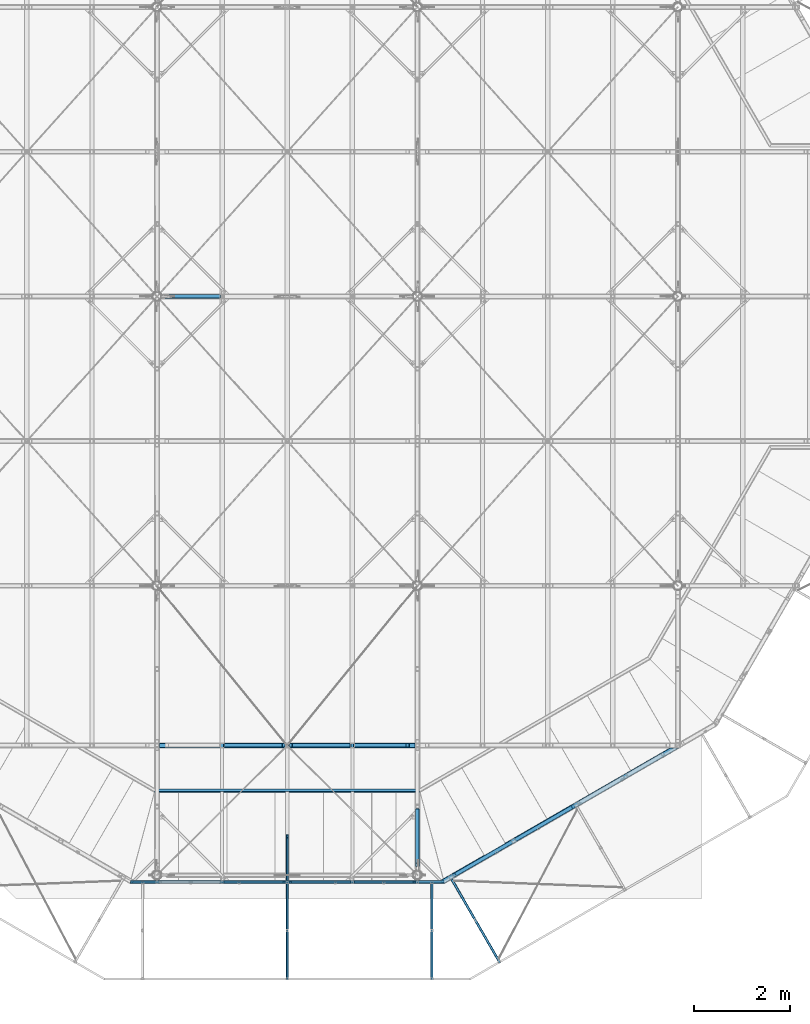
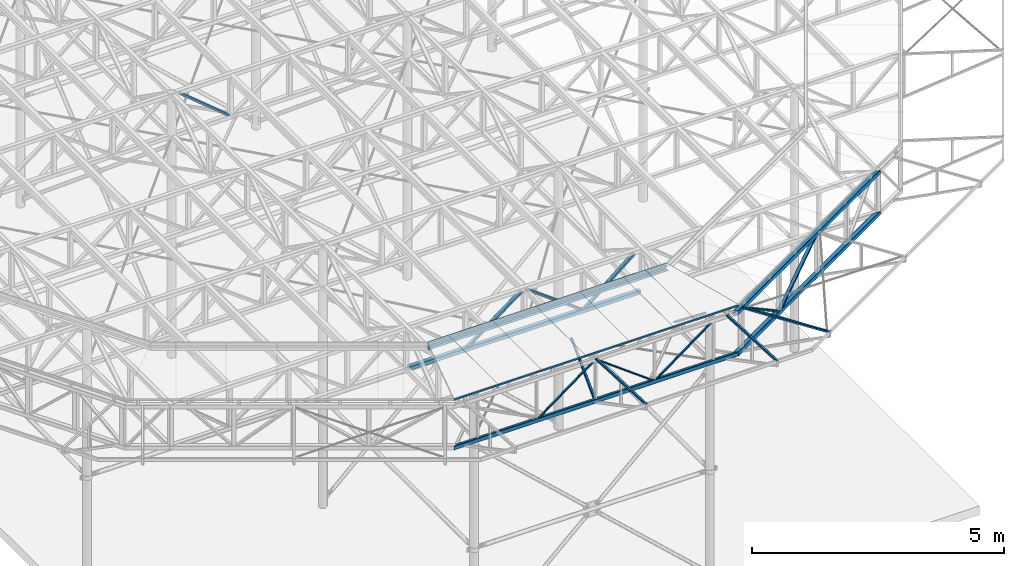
# One storey, part 45 of 132: 21 discrete accessories, 9 elements without a shape of their own.
"""IFC2X3 building model written with IfcOpenShell, lengths in millimetres."""

from ifc_helpers import new_model, si_unit, frame, origin_with_axes, origin_2d_with_axis, place, context, subcontext, project, spatial, hollow_rectangle, l_section, extrude, boolean, clip, halfspace, material, type_object, element, aggregate, save


model = new_model("IFC2X3")

# Units and contexts
model_context = context("Model", 3, precision=1e-05, world=origin_with_axes())
body_context = subcontext(model_context, "Body", "Model", "MODEL_VIEW")
ifc_project = project(units=[si_unit("LENGTHUNIT", "METRE", prefix="MILLI"), si_unit("AREAUNIT", "SQUARE_METRE"), si_unit("VOLUMEUNIT", "CUBIC_METRE"), si_unit("MASSUNIT", "GRAM", prefix="KILO"), si_unit("TIMEUNIT", "SECOND"), si_unit("PLANEANGLEUNIT", "RADIAN"), si_unit("SOLIDANGLEUNIT", "STERADIAN"), si_unit("THERMODYNAMICTEMPERATUREUNIT", "DEGREE_CELSIUS"), si_unit("LUMINOUSINTENSITYUNIT", "LUMEN")], contexts=[model_context])

# Site, building, storey
site_placement = place(None, origin_with_axes())
site = spatial("IfcSite", under=ifc_project, at=site_placement, Name="Budowa", CompositionType="ELEMENT")
building_placement = place(site_placement, origin_with_axes())
building = spatial("IfcBuilding", under=site, at=building_placement, Name="Undefined", CompositionType="ELEMENT")
storey_placement = place(building_placement, origin_with_axes())
storey = spatial("IfcBuildingStorey", under=building, at=storey_placement, Name="Undefined", CompositionType="ELEMENT", Elevation=0.0)

# Assembly, discrete accessories
assembly_1_placement = place(storey_placement, origin_with_axes())
assembly_1 = element("IfcElementAssembly", 1, at=assembly_1_placement, inside=storey, Name="Steel Assembly", AssemblyPlace="NOTDEFINED", PredefinedType="RIGID_FRAME")
ifc_material = material(Name="STEEL/S235")
discrete_accessory_type = type_object("IfcDiscreteAccessoryType", Name="BEAM")
discrete_accessory_1_placement = place(assembly_1_placement, frame((8862.99999997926, -144.900000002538, 14004.0), z_axis=(0.0, 1.0, 0.0), x_axis=(1.0, 0.0, 0.0)))
discrete_accessory_1 = element("IfcDiscreteAccessory", 2, at=discrete_accessory_1_placement, type_object=discrete_accessory_type, material=ifc_material, Name="BEAM", ObjectType="L60*40*6", context=body_context, shape_type="Clipping", body=[
    clip(clip(extrude(l_section(Depth=60.0, Width=40.0, Thickness=6.0, FilletRadius=6.0, EdgeRadius=3.0, at=origin_2d_with_axis()), frame((6532.19860092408, 0.0, 0.0), z_axis=(-1.0, 0.0, 0.0), x_axis=(0.0, -1.0, 0.0)), (0.0, 0.0, 1.0), 6540.4), halfspace(frame((6523.99999999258, 0.0, -29.9999999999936), z_axis=(0.965926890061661, 0.0, 0.258815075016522), x_axis=(0.0, -1.0, 0.0)), False)), halfspace(frame((16.0756852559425, 0.0, 30.0000000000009), z_axis=(-0.965930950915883, 0.0, 0.258799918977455), x_axis=(0.0, -1.0, 0.0)), False)),
])
discrete_accessory_2_placement = place(assembly_1_placement, frame((9387.09565701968, 1757.0005229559, 13965.0), z_axis=(0.0, -1.0, 0.0), x_axis=(1.0, 0.0, 0.0)))
discrete_accessory_2 = element("IfcDiscreteAccessory", 3, at=discrete_accessory_2_placement, type_object=discrete_accessory_type, material=ifc_material, Name="BEAM", ObjectType="L50*6", context=body_context, shape_type="Clipping", body=[
    clip(clip(extrude(l_section(Depth=50.0, Width=50.0, Thickness=6.0, FilletRadius=7.0, EdgeRadius=3.5, at=origin_2d_with_axis()), frame((5496.0396283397, 0.0, 0.0), z_axis=(-1.0, 0.0, 0.0), x_axis=(0.0, -1.0, 0.0)), (0.0, 0.0, 1.0), 5516.27), halfspace(frame((5475.80945900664, 0.0, -25.0), z_axis=(-0.965925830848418, 0.0, 0.258819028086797), x_axis=(0.0, 1.0, 0.0)), True)), halfspace(frame((3.51101334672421e-08, 0.0, -24.9999999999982), z_axis=(-0.965925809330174, 0.0, -0.258819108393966), x_axis=(0.0, 1.0, 0.0)), False)),
])
aggregate(assembly_1, [discrete_accessory_1, discrete_accessory_2])

# Assembly, discrete accessory
assembly_2_placement = place(storey_placement, origin_with_axes())
assembly_2 = element("IfcElementAssembly", 4, at=assembly_2_placement, inside=storey, Name="Steel Assembly", AssemblyPlace="NOTDEFINED", PredefinedType="RIGID_FRAME")
discrete_accessory_3_placement = place(assembly_2_placement, frame((9389.50719318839, 1753.50052295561, 13955.0), z_axis=(0.0, 0.0, 1.0), x_axis=(1.0, 0.0, 0.0)))
discrete_accessory_3 = element("IfcDiscreteAccessory", 5, at=discrete_accessory_3_placement, type_object=discrete_accessory_type, material=ifc_material, Name="BEAM", ObjectType="L150*75*9", context=body_context, shape_type="Clipping", body=[
    clip(clip(extrude(l_section(Depth=150.0, Width=75.0, Thickness=9.0, FilletRadius=10.5, EdgeRadius=5.5, at=origin_2d_with_axis()), frame((5501.33162173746, 0.0, 0.0), z_axis=(-1.0, 0.0, 0.0), x_axis=(0.0, -1.0, 0.0)), (0.0, 0.0, 1.0), 5531.68), halfspace(frame((5470.98636773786, 37.5, 0.0), z_axis=(-0.965925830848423, -0.258819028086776, 0.0), x_axis=(0.0, 0.0, 1.0)), True)), halfspace(frame((1.9117578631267e-08, 37.5000000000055, -1.81898940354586e-12), z_axis=(-0.965925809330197, 0.258819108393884, 0.0), x_axis=(0.0, 0.0, 1.0)), False)),
])
aggregate(assembly_2, [discrete_accessory_3])

assembly_3_placement = place(storey_placement, origin_with_axes())
assembly_3 = element("IfcElementAssembly", 6, at=assembly_3_placement, inside=storey, Name="Steel Assembly", AssemblyPlace="NOTDEFINED", PredefinedType="RIGID_FRAME")
discrete_accessory_4_placement = place(assembly_3_placement, frame((12124.7999998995, 787.677669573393, 13742.3223304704), z_axis=(-1.0, 0.0, 0.0), x_axis=(0.0, -0.707106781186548, -0.707106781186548)))
discrete_accessory_4 = element("IfcDiscreteAccessory", 7, at=discrete_accessory_4_placement, type_object=discrete_accessory_type, material=ifc_material, Name="BEAM", ObjectType="SHS50*5", context=body_context, shape_type="Clipping", body=[
    clip(clip(extrude(hollow_rectangle(XDim=50.0, YDim=50.0, WallThickness=5.0, InnerFilletRadius=5.0, OuterFilletRadius=10.0, at=origin_2d_with_axis()), frame((1327.07900269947, -3.63797880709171e-12, 0.0), z_axis=(-1.0, 0.0, 0.0), x_axis=(0.0, -1.0, 0.0)), (0.0, 0.0, 1.0), 1402.58), halfspace(frame((1248.0434687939, 28.5355339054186, 196.150089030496), z_axis=(0.707106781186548, 0.707106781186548, 0.0), x_axis=(0.0, 0.0, -1.0)), False)), halfspace(frame((-67.4264068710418, -42.4264068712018, 999.999999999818), z_axis=(0.707106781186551, -0.707106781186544, 0.0), x_axis=(0.707106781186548, 0.707106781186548, 0.0)), True)),
])
aggregate(assembly_3, [discrete_accessory_4])

assembly_4_placement = place(storey_placement, origin_with_axes())
assembly_4 = element("IfcElementAssembly", 8, at=assembly_4_placement, inside=storey, Name="Steel Assembly", AssemblyPlace="NOTDEFINED", PredefinedType="RIGID_FRAME")
discrete_accessory_5_placement = place(assembly_4_placement, frame((15537.2946203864, -89.5758733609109, 13855.0311915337), z_axis=(0.866042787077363, 0.499969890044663, 0.0), x_axis=(0.499346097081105, -0.86496225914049, 0.0499376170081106)))
discrete_accessory_5 = element("IfcDiscreteAccessory", 9, at=discrete_accessory_5_placement, type_object=discrete_accessory_type, material=ifc_material, Name="BEAM", ObjectType="SHS50*4", context=body_context, shape_type="Clipping", body=[
    clip(clip(extrude(hollow_rectangle(XDim=50.0, YDim=50.0, WallThickness=4.0, InnerFilletRadius=4.0, OuterFilletRadius=8.0, at=origin_2d_with_axis()), frame((2047.80222226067, -1.81898940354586e-12, -1.00153404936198e-12), z_axis=(-1.0, 0.0, 0.0), x_axis=(0.0, -1.0, 0.0)), (0.0, 0.0, 1.0), 2120.54), halfspace(frame((2002.5989463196, -25.0000000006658, -7.85761585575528e-07), z_axis=(-0.689225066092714, -0.724547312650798, 2.88487317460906e-10), x_axis=(0.0, 0.0, -1.0)), True)), halfspace(frame((-1.23691279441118e-08, -25.0000000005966, 73.1665326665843), z_axis=(-0.998752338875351, -0.0499376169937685, 0.0), x_axis=(0.0, 0.0, -1.0)), False)),
])
aggregate(assembly_4, [discrete_accessory_5])

assembly_5_placement = place(storey_placement, origin_with_axes())
assembly_5 = element("IfcElementAssembly", 10, at=assembly_5_placement, inside=storey, Name="Steel Assembly", AssemblyPlace="NOTDEFINED", PredefinedType="RIGID_FRAME")
discrete_accessory_6_placement = place(assembly_5_placement, frame((15124.9999999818, -176.148440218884, 13855.0311915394), z_axis=(1.0, 0.0, 0.0), x_axis=(0.0, -0.998752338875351, 0.0499376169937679)))
discrete_accessory_6 = element("IfcDiscreteAccessory", 11, at=discrete_accessory_6_placement, type_object=discrete_accessory_type, material=ifc_material, Name="BEAM", ObjectType="SHS50*4", context=body_context, shape_type="Clipping", body=[
    clip(clip(extrude(hollow_rectangle(XDim=50.0, YDim=50.0, WallThickness=4.0, InnerFilletRadius=4.0, OuterFilletRadius=8.0, at=origin_2d_with_axis()), frame((2004.12425861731, -3.63797880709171e-12, 0.0), z_axis=(-1.0, 0.0, 0.0), x_axis=(0.0, -1.0, 0.0)), (0.0, 0.0, 1.0), 2033.18), halfspace(frame((2002.5989463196, -25.0000000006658, -7.85761585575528e-07), z_axis=(-0.689225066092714, -0.724547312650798, 2.88487317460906e-10), x_axis=(0.0, 0.0, -1.0)), True)), halfspace(frame((-1.23691279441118e-08, -25.0000000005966, 73.1665326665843), z_axis=(-0.998752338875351, -0.0499376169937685, 0.0), x_axis=(0.0, 0.0, -1.0)), False)),
])
aggregate(assembly_5, [discrete_accessory_6])

assembly_6_placement = place(storey_placement, origin_with_axes())
assembly_6 = element("IfcElementAssembly", 12, at=assembly_6_placement, inside=storey, Name="Steel Assembly", AssemblyPlace="NOTDEFINED", PredefinedType="RIGID_FRAME")
discrete_accessory_7_placement = place(assembly_6_placement, frame((12124.9999999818, -176.148440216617, 13855.031191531), z_axis=(1.0, 0.0, 0.0), x_axis=(0.0, -0.998752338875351, 0.0499376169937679)))
discrete_accessory_7 = element("IfcDiscreteAccessory", 13, at=discrete_accessory_7_placement, type_object=discrete_accessory_type, material=ifc_material, Name="BEAM", ObjectType="SHS50*4", context=body_context, shape_type="Clipping", body=[
    clip(clip(extrude(hollow_rectangle(XDim=50.0, YDim=50.0, WallThickness=4.0, InnerFilletRadius=4.0, OuterFilletRadius=8.0, at=origin_2d_with_axis()), frame((2004.12425861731, -3.63797880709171e-12, 0.0), z_axis=(-1.0, 0.0, 0.0), x_axis=(0.0, -1.0, 0.0)), (0.0, 0.0, 1.0), 2033.18), halfspace(frame((2002.5989463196, -25.0000000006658, -7.85761585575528e-07), z_axis=(-0.689225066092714, -0.724547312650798, 2.88487317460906e-10), x_axis=(0.0, 0.0, -1.0)), True)), halfspace(frame((-1.23691279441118e-08, -25.0000000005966, 73.1665326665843), z_axis=(-0.998752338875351, -0.0499376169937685, 0.0), x_axis=(0.0, 0.0, -1.0)), False)),
])
aggregate(assembly_6, [discrete_accessory_7])

# Assembly, discrete accessories
assembly_7_placement = place(storey_placement, origin_with_axes())
assembly_7 = element("IfcElementAssembly", 14, at=assembly_7_placement, inside=storey, Name="Steel Assembly", AssemblyPlace="NOTDEFINED", PredefinedType="RIGID_FRAME")
discrete_accessory_8_placement = place(assembly_7_placement, frame((18120.0832816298, 1460.65354194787, 13830.0000000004), z_axis=(0.499969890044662, -0.866042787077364, 0.0), x_axis=(-0.720591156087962, -0.41600009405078, -0.554700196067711)))
solid_1 = boolean("DIFFERENCE", boolean("DIFFERENCE", extrude(hollow_rectangle(XDim=90.0, YDim=90.0, WallThickness=4.0, InnerFilletRadius=4.0, OuterFilletRadius=8.0, at=origin_2d_with_axis()), frame((1275.70521449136, -790.377621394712, 2.53191315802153e-07), z_axis=(0.554700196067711, 0.832050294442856, -1.11090858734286e-10), x_axis=(-0.832050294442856, 0.554700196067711, 1.66634595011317e-10)), (0.0, 0.0, 1.0), 900.0), halfspace(frame((1275.70521428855, -790.377621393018, 1000.00000025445), z_axis=(0.554700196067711, 0.832050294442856, -1.11090858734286e-10), x_axis=(0.0, 0.0, -1.0)), True)), halfspace(frame((1774.93539074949, -41.5323563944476, 1000.00000035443), z_axis=(-0.554700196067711, -0.832050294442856, 1.11091980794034e-10), x_axis=(0.0, 0.0, -1.0)), True))
solid_2 = boolean("DIFFERENCE", boolean("DIFFERENCE", extrude(hollow_rectangle(XDim=90.0, YDim=90.0, WallThickness=4.0, InnerFilletRadius=4.0, OuterFilletRadius=8.0, at=origin_2d_with_axis()), frame((27.6297728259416, 41.6726727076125, 6.2698707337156e-09), z_axis=(0.554700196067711, 0.832050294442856, -1.11090858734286e-10), x_axis=(-0.832050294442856, 0.554700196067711, 1.66634595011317e-10)), (0.0, 0.0, 1.0), 900.0), halfspace(frame((27.6297726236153, 41.6726727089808, 1000.00000000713), z_axis=(0.554700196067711, 0.832050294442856, -1.11090858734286e-10), x_axis=(0.0, 0.0, -1.0)), True)), halfspace(frame((526.859949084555, 790.517937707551, 1000.00000010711), z_axis=(-0.554700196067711, -0.832050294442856, 1.11091980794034e-10), x_axis=(0.0, 0.0, -1.0)), True))
discrete_accessory_8 = element("IfcDiscreteAccessory", 15, at=discrete_accessory_8_placement, type_object=discrete_accessory_type, material=ifc_material, Name="BEAM", ObjectType="RHS80*40*4", context=body_context, shape_type="CSG", body=[
    boolean("DIFFERENCE", boolean("DIFFERENCE", boolean("DIFFERENCE", boolean("DIFFERENCE", extrude(hollow_rectangle(XDim=40.0, YDim=80.0, WallThickness=4.0, InnerFilletRadius=4.0, OuterFilletRadius=8.0, at=origin_2d_with_axis()), frame((1821.2793628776, 0.0, -8.6431479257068e-13), z_axis=(-1.0, 0.0, 0.0), x_axis=(0.0, -1.0, 0.0)), (0.0, 0.0, 1.0), 1839.78), solid_1), solid_2), halfspace(frame((1775.04062811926, -41.6025143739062, 999.999999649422), z_axis=(-0.554700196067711, -0.832050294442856, 1.11091980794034e-10), x_axis=(0.832050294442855, -0.554700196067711, -1.66634436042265e-10)), True)), halfspace(frame((27.7350099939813, 41.6025147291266, 999.999999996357), z_axis=(0.554700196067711, 0.832050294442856, -1.11090858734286e-10), x_axis=(-0.832050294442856, 0.554700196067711, 1.66634595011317e-10)), True)),
])
discrete_accessory_9_placement = place(assembly_7_placement, frame((15522.0644567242, -39.1928924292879, 13830.0000000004), z_axis=(0.499969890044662, -0.866042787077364, 0.0), x_axis=(0.720591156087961, 0.41600009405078, -0.554700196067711)))
solid_3 = boolean("DIFFERENCE", boolean("DIFFERENCE", extrude(hollow_rectangle(XDim=90.0, YDim=90.0, WallThickness=4.0, InnerFilletRadius=4.0, OuterFilletRadius=8.0, at=origin_2d_with_axis()), frame((27.7350097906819, -41.6025147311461, -4.89933715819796e-09), z_axis=(0.554700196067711, -0.832050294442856, 1.11090858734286e-10), x_axis=(0.832050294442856, 0.554700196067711, 1.66635594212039e-10)), (0.0, 0.0, 1.0), 900.0), halfspace(frame((27.7350096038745, -41.6025147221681, 1000.00000000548), z_axis=(0.554700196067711, -0.832050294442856, 1.11090858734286e-10), x_axis=(0.0, 0.0, -1.0)), True)), halfspace(frame((526.965186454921, -790.4477797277, 999.999999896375), z_axis=(-0.554700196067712, 0.832050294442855, -1.1109021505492e-10), x_axis=(0.0, 0.0, -1.0)), True))
solid_4 = boolean("DIFFERENCE", boolean("DIFFERENCE", extrude(hollow_rectangle(XDim=90.0, YDim=90.0, WallThickness=4.0, InnerFilletRadius=4.0, OuterFilletRadius=8.0, at=origin_2d_with_axis()), frame((1275.81045145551, 790.447779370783, -2.51850795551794e-07), z_axis=(0.554700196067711, -0.832050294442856, 1.11090858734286e-10), x_axis=(0.832050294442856, 0.554700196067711, 1.66635594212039e-10)), (0.0, 0.0, 1.0), 900.0), halfspace(frame((1275.81045165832, 790.447779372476, 999.999999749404), z_axis=(0.554700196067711, -0.832050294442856, 1.11090858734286e-10), x_axis=(0.0, 0.0, -1.0)), True)), halfspace(frame((1775.04062824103, 41.6025147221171, 999.999999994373), z_axis=(-0.554700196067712, 0.832050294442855, -1.1109021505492e-10), x_axis=(0.0, 0.0, -1.0)), True))
discrete_accessory_9 = element("IfcDiscreteAccessory", 16, at=discrete_accessory_9_placement, type_object=discrete_accessory_type, material=ifc_material, Name="BEAM", ObjectType="RHS80*40*4", context=body_context, shape_type="CSG", body=[
    boolean("DIFFERENCE", boolean("DIFFERENCE", boolean("DIFFERENCE", boolean("DIFFERENCE", extrude(hollow_rectangle(XDim=40.0, YDim=80.0, WallThickness=4.0, InnerFilletRadius=4.0, OuterFilletRadius=8.0, at=origin_2d_with_axis()), frame((1821.2793628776, 0.0, -8.6431479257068e-13), z_axis=(-1.0, 0.0, 0.0), x_axis=(0.0, -1.0, 0.0)), (0.0, 0.0, 1.0), 1839.78), solid_3), solid_4), halfspace(frame((1775.04062824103, 41.6025147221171, 999.999999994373), z_axis=(-0.554700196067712, 0.832050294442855, -1.1109021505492e-10), x_axis=(-0.832050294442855, -0.554700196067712, -1.66634890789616e-10)), True)), halfspace(frame((27.7350096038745, -41.6025147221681, 1000.00000000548), z_axis=(0.554700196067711, -0.832050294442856, 1.11090858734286e-10), x_axis=(0.832050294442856, 0.554700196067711, 1.66635594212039e-10)), True)),
])
discrete_accessory_10_placement = place(assembly_7_placement, frame((15362.0015054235, -131.597860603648, 12830.0), z_axis=(0.0, 0.0, 1.0), x_axis=(0.866042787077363, 0.499969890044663, 0.0)))
discrete_accessory_10 = element("IfcDiscreteAccessory", 17, at=discrete_accessory_10_placement, type_object=discrete_accessory_type, material=ifc_material, Name="BEAM", ObjectType="SHS100*5", context=body_context, shape_type="Clipping", body=[
    clip(clip(extrude(hollow_rectangle(XDim=100.0, YDim=100.0, WallThickness=5.0, InnerFilletRadius=5.0, OuterFilletRadius=10.0, at=origin_2d_with_axis()), frame((5640.58238679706, 0.0, 1.81898940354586e-12), z_axis=(-1.0, 0.0, 0.0), x_axis=(0.0, -1.0, 0.0)), (0.0, 0.0, 1.0), 5811.83), halfspace(frame((5456.92005784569, 50.0, -49.9999999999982), z_axis=(0.499969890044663, 0.866042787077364, 0.0), x_axis=(0.866042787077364, -0.499969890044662, 0.0)), False)), halfspace(frame((-53.2117618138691, 50.0000000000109, 1.81898940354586e-12), z_axis=(-0.882798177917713, -0.46975246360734, 0.0), x_axis=(0.0, 0.0, 1.0)), False)),
])
discrete_accessory_11_placement = place(assembly_7_placement, frame((15362.0015054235, -131.597860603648, 13830.0), z_axis=(0.0, 0.0, 1.0), x_axis=(0.866042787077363, 0.499969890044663, 0.0)))
discrete_accessory_11 = element("IfcDiscreteAccessory", 18, at=discrete_accessory_11_placement, type_object=discrete_accessory_type, material=ifc_material, Name="BEAM", ObjectType="SHS100*5", context=body_context, shape_type="Clipping", body=[
    clip(clip(extrude(hollow_rectangle(XDim=100.0, YDim=100.0, WallThickness=5.0, InnerFilletRadius=5.0, OuterFilletRadius=10.0, at=origin_2d_with_axis()), frame((5640.58238679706, 0.0, 1.81898940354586e-12), z_axis=(-1.0, 0.0, 0.0), x_axis=(0.0, -1.0, 0.0)), (0.0, 0.0, 1.0), 5811.83), halfspace(frame((5456.92005784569, 50.0, -49.9999999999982), z_axis=(0.499969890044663, 0.866042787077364, 0.0), x_axis=(0.866042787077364, -0.499969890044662, 0.0)), False)), halfspace(frame((-53.2117618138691, 50.0000000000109, 1.81898940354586e-12), z_axis=(-0.882798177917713, -0.46975246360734, 0.0), x_axis=(0.0, 0.0, 1.0)), False)),
])
discrete_accessory_12_placement = place(assembly_7_placement, frame((13474.9999999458, -144.899999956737, 12829.9999999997), z_axis=(0.0, -1.0, 0.0), x_axis=(0.803557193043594, 0.0, 0.595227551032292)))
discrete_accessory_12 = element("IfcDiscreteAccessory", 19, at=discrete_accessory_12_placement, type_object=discrete_accessory_type, material=ifc_material, Name="BEAM", ObjectType="RHS50*30*5", context=body_context, shape_type="Clipping", body=[
    clip(clip(extrude(hollow_rectangle(XDim=30.0, YDim=50.0, WallThickness=5.0, InnerFilletRadius=5.0, OuterFilletRadius=10.0, at=origin_2d_with_axis()), frame((1636.93327242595, -3.63797880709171e-12, 3.63797880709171e-12), z_axis=(-1.0, 0.0, 0.0), x_axis=(0.0, -1.0, 0.0)), (0.0, 0.0, 1.0), 1593.84), halfspace(frame((1650.2683829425, -40.1778596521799, 1000.0), z_axis=(-0.595227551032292, -0.803557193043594, 0.0), x_axis=(0.803557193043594, -0.595227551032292, 0.0)), True)), halfspace(frame((29.7613775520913, 40.1778596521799, 1000.0), z_axis=(0.595227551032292, 0.803557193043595, 0.0), x_axis=(-0.803557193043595, 0.595227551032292, 0.0)), True)),
])
discrete_accessory_13_placement = place(assembly_7_placement, frame((12124.9999999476, -144.899999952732, 13830.0000000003), z_axis=(0.0, -1.0, 0.0), x_axis=(0.803557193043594, 0.0, -0.595227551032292)))
discrete_accessory_13 = element("IfcDiscreteAccessory", 20, at=discrete_accessory_13_placement, type_object=discrete_accessory_type, material=ifc_material, Name="BEAM", ObjectType="RHS50*30*5", context=body_context, shape_type="Clipping", body=[
    clip(clip(extrude(hollow_rectangle(XDim=30.0, YDim=50.0, WallThickness=5.0, InnerFilletRadius=5.0, OuterFilletRadius=10.0, at=origin_2d_with_axis()), frame((1636.93327242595, -3.63797880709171e-12, 3.63797880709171e-12), z_axis=(-1.0, 0.0, 0.0), x_axis=(0.0, -1.0, 0.0)), (0.0, 0.0, 1.0), 1593.84), halfspace(frame((1650.2683829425, 40.1778596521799, 1000.0), z_axis=(-0.595227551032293, 0.803557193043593, 0.0), x_axis=(-0.803557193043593, -0.595227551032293, 0.0)), True)), halfspace(frame((29.7613775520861, -40.1778596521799, 1000.0), z_axis=(0.595227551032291, -0.803557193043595, 0.0), x_axis=(0.803557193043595, 0.595227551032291, 0.0)), True)),
])
discrete_accessory_14_placement = place(assembly_7_placement, frame((10774.999999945, -144.899999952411, 12829.9999999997), z_axis=(0.0, -1.0, 0.0), x_axis=(0.803557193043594, 0.0, 0.595227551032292)))
discrete_accessory_14 = element("IfcDiscreteAccessory", 21, at=discrete_accessory_14_placement, type_object=discrete_accessory_type, material=ifc_material, Name="BEAM", ObjectType="RHS50*30*5", context=body_context, shape_type="Clipping", body=[
    clip(clip(extrude(hollow_rectangle(XDim=30.0, YDim=50.0, WallThickness=5.0, InnerFilletRadius=5.0, OuterFilletRadius=10.0, at=origin_2d_with_axis()), frame((1636.93327242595, -3.63797880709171e-12, 3.63797880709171e-12), z_axis=(-1.0, 0.0, 0.0), x_axis=(0.0, -1.0, 0.0)), (0.0, 0.0, 1.0), 1593.84), halfspace(frame((1650.2683829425, -40.1778596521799, 1000.0), z_axis=(-0.595227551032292, -0.803557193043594, 0.0), x_axis=(0.803557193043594, -0.595227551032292, 0.0)), True)), halfspace(frame((29.7613775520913, 40.1778596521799, 1000.0), z_axis=(0.595227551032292, 0.803557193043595, 0.0), x_axis=(-0.803557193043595, 0.595227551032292, 0.0)), True)),
])
discrete_accessory_15_placement = place(assembly_7_placement, frame((8861.99999994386, -144.899999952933, 12830.0), z_axis=(0.0, 0.0, 1.0), x_axis=(1.0, 0.0, 0.0)))
discrete_accessory_15 = element("IfcDiscreteAccessory", 22, at=discrete_accessory_15_placement, type_object=discrete_accessory_type, material=ifc_material, Name="BEAM", ObjectType="RHS100*60*6", context=body_context, shape_type="Clipping", body=[
    clip(clip(extrude(hollow_rectangle(XDim=60.0, YDim=100.0, WallThickness=6.0, InnerFilletRadius=6.0, OuterFilletRadius=12.0, at=origin_2d_with_axis()), frame((6574.00113225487, 0.0, 0.0), z_axis=(-1.0, 0.0, 0.0), x_axis=(0.0, -1.0, 0.0)), (0.0, 0.0, 1.0), 6622.0), halfspace(frame((6428.91934847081, 29.9999999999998, 0.0), z_axis=(-0.529678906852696, -0.848198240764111, 0.0), x_axis=(0.0, 0.0, 1.0)), True)), halfspace(frame((1.00000004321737, -29.9999999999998, 0.0), z_axis=(0.529678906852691, -0.848198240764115, 0.0), x_axis=(0.0, 0.0, 1.0)), True)),
])
discrete_accessory_16_placement = place(assembly_7_placement, frame((14824.9999999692, 149.961365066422, 13830.0000000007), z_axis=(1.0, 0.0, 0.0), x_axis=(0.0, 0.785673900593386, -0.618640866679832)))
solid_5 = boolean("DIFFERENCE", boolean("DIFFERENCE", extrude(hollow_rectangle(XDim=90.0, YDim=90.0, WallThickness=6.0, InnerFilletRadius=6.0, OuterFilletRadius=12.0, at=origin_2d_with_axis()), frame((1028.76825158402, 746.414106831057, -1.21326593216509e-09), z_axis=(0.618640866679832, -0.785673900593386, 0.0), x_axis=(-0.785673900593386, -0.618640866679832, 0.0)), (0.0, 0.0, 1.0), 900.0), halfspace(frame((1028.76825158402, 746.414106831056, -1000.00000000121), z_axis=(0.618640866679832, -0.785673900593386, 0.0), x_axis=(-0.785673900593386, -0.618640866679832, 0.0)), True)), halfspace(frame((1585.54503159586, 39.3075962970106, -1000.00000000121), z_axis=(-0.618640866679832, 0.785673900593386, 0.0), x_axis=(0.785673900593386, 0.618640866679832, 0.0)), True))
discrete_accessory_16 = element("IfcDiscreteAccessory", 23, at=discrete_accessory_16_placement, type_object=discrete_accessory_type, material=ifc_material, Name="BEAM", ObjectType="RHS90*50*5", context=body_context, shape_type="CSG", body=[
    boolean("DIFFERENCE", boolean("DIFFERENCE", boolean("DIFFERENCE", extrude(hollow_rectangle(XDim=50.0, YDim=90.0, WallThickness=5.0, InnerFilletRadius=7.5, OuterFilletRadius=12.5, at=origin_2d_with_axis()), frame((1582.4028592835, 8.21653697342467e-13, 0.0), z_axis=(-1.0, 0.0, 0.0), x_axis=(0.0, -1.0, 0.0)), (0.0, 0.0, 1.0), 1548.36), solid_5), halfspace(frame((1585.51467698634, 39.2836950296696, 1000.0), z_axis=(-0.618640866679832, 0.785673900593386, 0.0), x_axis=(-0.785673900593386, -0.618640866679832, 0.0)), True)), halfspace(frame((30.9320433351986, -39.2836950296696, 1000.0), z_axis=(0.618640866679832, -0.785673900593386, 0.0), x_axis=(0.785673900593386, 0.618640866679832, 0.0)), True)),
])
aggregate(assembly_7, [discrete_accessory_8, discrete_accessory_9, discrete_accessory_10, discrete_accessory_11, discrete_accessory_12, discrete_accessory_13, discrete_accessory_14, discrete_accessory_15, discrete_accessory_16])

assembly_8_placement = place(storey_placement, origin_with_axes())
assembly_8 = element("IfcElementAssembly", 24, at=assembly_8_placement, inside=storey, Name="Steel Assembly", AssemblyPlace="NOTDEFINED", PredefinedType="RIGID_FRAME")
discrete_accessory_17_placement = place(assembly_8_placement, frame((14683.9999999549, 2690.00000004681, 13830.0), z_axis=(0.0, -1.0, 0.0), x_axis=(-0.770567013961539, 0.0, -0.637358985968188)))
solid_6 = boolean("DIFFERENCE", boolean("DIFFERENCE", extrude(hollow_rectangle(XDim=90.0, YDim=90.0, WallThickness=6.0, InnerFilletRadius=6.0, OuterFilletRadius=12.0, at=origin_2d_with_axis()), frame((1537.1065565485, -38.5283507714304, -6.22094376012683e-10), z_axis=(-0.637358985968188, -0.770567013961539, 0.0), x_axis=(0.770567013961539, -0.637358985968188, 0.0)), (0.0, 0.0, 1.0), 900.0), halfspace(frame((1537.1065565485, -38.5283507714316, 999.999999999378), z_axis=(-0.637358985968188, -0.770567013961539, 0.0), x_axis=(0.770567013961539, -0.637358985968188, 0.0)), True)), halfspace(frame((963.483469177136, -732.038663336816, 999.999999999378), z_axis=(0.637358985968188, 0.770567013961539, 0.0), x_axis=(-0.770567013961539, 0.637358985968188, 0.0)), True))
discrete_accessory_17 = element("IfcDiscreteAccessory", 25, at=discrete_accessory_17_placement, type_object=discrete_accessory_type, material=ifc_material, Name="BEAM", ObjectType="RHS90*50*5", context=body_context, shape_type="CSG", body=[
    boolean("DIFFERENCE", boolean("DIFFERENCE", boolean("DIFFERENCE", extrude(hollow_rectangle(XDim=50.0, YDim=90.0, WallThickness=5.0, InnerFilletRadius=7.5, OuterFilletRadius=12.5, at=origin_2d_with_axis()), frame((1533.07734352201, 2.27373675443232e-12, 0.0), z_axis=(-1.0, 0.0, 0.0), x_axis=(0.0, -1.0, 0.0)), (0.0, 0.0, 1.0), 1497.18), solid_6), halfspace(frame((1537.1065565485, -38.5283507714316, 999.999999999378), z_axis=(-0.637358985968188, -0.770567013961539, 0.0), x_axis=(0.770567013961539, -0.637358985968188, 0.0)), True)), halfspace(frame((31.867949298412, 38.52835069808, 1000.0), z_axis=(0.637358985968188, 0.770567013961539, 0.0), x_axis=(-0.770567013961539, 0.637358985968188, 0.0)), True)),
])
discrete_accessory_18_placement = place(assembly_8_placement, frame((12124.9999999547, 2690.00000004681, 13830.0), z_axis=(0.0, -1.0, 0.0), x_axis=(-0.803557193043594, 0.0, -0.595227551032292)))
solid_7 = boolean("DIFFERENCE", boolean("DIFFERENCE", extrude(hollow_rectangle(XDim=90.0, YDim=90.0, WallThickness=6.0, InnerFilletRadius=6.0, OuterFilletRadius=12.0, at=origin_2d_with_axis()), frame((565.466173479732, 763.379333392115, -6.22094376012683e-10), z_axis=(-0.595227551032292, -0.803557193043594, 0.0), x_axis=(0.803557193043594, -0.595227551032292, 0.0)), (0.0, 0.0, 1.0), 900.0), halfspace(frame((565.46617347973, 763.379333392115, 999.999999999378), z_axis=(-0.595227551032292, -0.803557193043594, 0.0), x_axis=(0.803557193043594, -0.595227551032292, 0.0)), True)), halfspace(frame((29.7613775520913, 40.1778596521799, 1000.0), z_axis=(0.595227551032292, 0.803557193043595, 0.0), x_axis=(-0.803557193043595, 0.595227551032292, 0.0)), True))
solid_8 = boolean("DIFFERENCE", boolean("DIFFERENCE", extrude(hollow_rectangle(XDim=90.0, YDim=90.0, WallThickness=6.0, InnerFilletRadius=6.0, OuterFilletRadius=12.0, at=origin_2d_with_axis()), frame((1650.26838408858, -40.1778605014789, -6.22094376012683e-10), z_axis=(-0.595227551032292, -0.803557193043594, 0.0), x_axis=(0.803557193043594, -0.595227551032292, 0.0)), (0.0, 0.0, 1.0), 900.0), halfspace(frame((1650.2683829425, -40.1778596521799, 1000.0), z_axis=(-0.595227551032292, -0.803557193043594, 0.0), x_axis=(0.803557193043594, -0.595227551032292, 0.0)), True)), halfspace(frame((1114.56358815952, -763.379334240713, 999.999999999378), z_axis=(0.595227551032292, 0.803557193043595, 0.0), x_axis=(-0.803557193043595, 0.595227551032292, 0.0)), True))
discrete_accessory_18 = element("IfcDiscreteAccessory", 26, at=discrete_accessory_18_placement, type_object=discrete_accessory_type, material=ifc_material, Name="BEAM", ObjectType="RHS90*50*5", context=body_context, shape_type="CSG", body=[
    boolean("DIFFERENCE", boolean("DIFFERENCE", boolean("DIFFERENCE", boolean("DIFFERENCE", extrude(hollow_rectangle(XDim=50.0, YDim=90.0, WallThickness=5.0, InnerFilletRadius=7.5, OuterFilletRadius=12.5, at=origin_2d_with_axis()), frame((1632.54994793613, 0.0, 0.0), z_axis=(-1.0, 0.0, 0.0), x_axis=(0.0, -1.0, 0.0)), (0.0, 0.0, 1.0), 1585.07), solid_7), solid_8), halfspace(frame((1650.2683829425, -40.1778596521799, 1000.0), z_axis=(-0.595227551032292, -0.803557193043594, 0.0), x_axis=(0.803557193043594, -0.595227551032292, 0.0)), True)), halfspace(frame((29.7613775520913, 40.1778596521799, 1000.0), z_axis=(0.595227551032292, 0.803557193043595, 0.0), x_axis=(-0.803557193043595, 0.595227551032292, 0.0)), True)),
])
discrete_accessory_19_placement = place(assembly_8_placement, frame((12124.9999999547, 2690.00000004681, 13830.0), z_axis=(0.0, -1.0, 0.0), x_axis=(0.803557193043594, 0.0, -0.595227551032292)))
solid_9 = boolean("DIFFERENCE", boolean("DIFFERENCE", extrude(hollow_rectangle(XDim=90.0, YDim=90.0, WallThickness=6.0, InnerFilletRadius=6.0, OuterFilletRadius=12.0, at=origin_2d_with_axis()), frame((1650.26838408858, 40.1778605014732, -6.22094376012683e-10), z_axis=(-0.595227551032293, 0.803557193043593, 0.0), x_axis=(-0.803557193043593, -0.595227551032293, 0.0)), (0.0, 0.0, 1.0), 900.0), halfspace(frame((1650.2683829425, 40.1778596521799, 1000.0), z_axis=(-0.595227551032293, 0.803557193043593, 0.0), x_axis=(-0.803557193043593, -0.595227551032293, 0.0)), True)), halfspace(frame((1114.56358815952, 763.379334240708, 999.999999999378), z_axis=(0.595227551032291, -0.803557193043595, 0.0), x_axis=(0.803557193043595, 0.595227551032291, 0.0)), True))
solid_10 = boolean("DIFFERENCE", boolean("DIFFERENCE", extrude(hollow_rectangle(XDim=90.0, YDim=90.0, WallThickness=6.0, InnerFilletRadius=6.0, OuterFilletRadius=12.0, at=origin_2d_with_axis()), frame((565.46617347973, -763.379333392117, -6.22094376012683e-10), z_axis=(-0.595227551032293, 0.803557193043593, 0.0), x_axis=(-0.803557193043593, -0.595227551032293, 0.0)), (0.0, 0.0, 1.0), 900.0), halfspace(frame((565.46617347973, -763.37933339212, 999.999999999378), z_axis=(-0.595227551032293, 0.803557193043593, 0.0), x_axis=(-0.803557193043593, -0.595227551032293, 0.0)), True)), halfspace(frame((29.7613775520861, -40.1778596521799, 1000.0), z_axis=(0.595227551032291, -0.803557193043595, 0.0), x_axis=(0.803557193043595, 0.595227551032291, 0.0)), True))
discrete_accessory_19 = element("IfcDiscreteAccessory", 27, at=discrete_accessory_19_placement, type_object=discrete_accessory_type, material=ifc_material, Name="BEAM", ObjectType="RHS90*50*5", context=body_context, shape_type="CSG", body=[
    boolean("DIFFERENCE", boolean("DIFFERENCE", boolean("DIFFERENCE", boolean("DIFFERENCE", extrude(hollow_rectangle(XDim=50.0, YDim=90.0, WallThickness=5.0, InnerFilletRadius=7.5, OuterFilletRadius=12.5, at=origin_2d_with_axis()), frame((1632.54994793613, 0.0, 0.0), z_axis=(-1.0, 0.0, 0.0), x_axis=(0.0, -1.0, 0.0)), (0.0, 0.0, 1.0), 1585.07), solid_9), solid_10), halfspace(frame((1650.2683829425, 40.1778596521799, 1000.0), z_axis=(-0.595227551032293, 0.803557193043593, 0.0), x_axis=(-0.803557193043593, -0.595227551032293, 0.0)), True)), halfspace(frame((29.7613775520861, -40.1778596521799, 1000.0), z_axis=(0.595227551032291, -0.803557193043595, 0.0), x_axis=(0.803557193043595, 0.595227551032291, 0.0)), True)),
])
discrete_accessory_20_placement = place(assembly_8_placement, frame((9474.9999999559, 2689.00000004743, 12830.0), z_axis=(0.0, -1.0, 0.0), x_axis=(1.0, 0.0, 0.0)))
discrete_accessory_20 = element("IfcDiscreteAccessory", 28, at=discrete_accessory_20_placement, type_object=discrete_accessory_type, material=ifc_material, Name="BEAM", ObjectType="SHS100*8", context=body_context, shape_type="SweptSolid", body=[
    extrude(hollow_rectangle(XDim=100.0, YDim=100.0, WallThickness=8.0, InnerFilletRadius=8.0, OuterFilletRadius=16.0, at=origin_2d_with_axis()), frame((5300.0, 0.0, 0.0), z_axis=(-1.0, 0.0, 0.0), x_axis=(0.0, -1.0, 0.0)), (0.0, 0.0, 1.0), 5300.0),
])
aggregate(assembly_8, [discrete_accessory_17, discrete_accessory_18, discrete_accessory_19, discrete_accessory_20])

# Assembly, discrete accessory
assembly_9_placement = place(storey_placement, origin_with_axes())
assembly_9 = element("IfcElementAssembly", 29, at=assembly_9_placement, inside=storey, Name="Steel Assembly", AssemblyPlace="NOTDEFINED", PredefinedType="RIGID_FRAME")
discrete_accessory_21_placement = place(assembly_9_placement, frame((9565.99999995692, 12000.0000000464, 13830.0), z_axis=(0.0, -1.0, 0.0), x_axis=(0.770567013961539, 0.0, -0.637358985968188)))
solid_11 = boolean("DIFFERENCE", boolean("DIFFERENCE", extrude(hollow_rectangle(XDim=90.0, YDim=90.0, WallThickness=6.0, InnerFilletRadius=6.0, OuterFilletRadius=12.0, at=origin_2d_with_axis()), frame((1537.1065565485, 38.528350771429, -6.22094376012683e-10), z_axis=(-0.637358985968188, 0.770567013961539, 0.0), x_axis=(-0.770567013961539, -0.637358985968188, 0.0)), (0.0, 0.0, 1.0), 900.0), halfspace(frame((1537.1065565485, 38.5283507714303, 999.999999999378), z_axis=(-0.637358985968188, 0.770567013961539, 0.0), x_axis=(-0.770567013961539, -0.637358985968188, 0.0)), True)), halfspace(frame((963.483469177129, 732.038663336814, 999.999999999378), z_axis=(0.637358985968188, -0.770567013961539, 0.0), x_axis=(0.770567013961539, 0.637358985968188, 0.0)), True))
discrete_accessory_21 = element("IfcDiscreteAccessory", 30, at=discrete_accessory_21_placement, type_object=discrete_accessory_type, material=ifc_material, Name="BEAM", ObjectType="RHS90*50*5", context=body_context, shape_type="CSG", body=[
    boolean("DIFFERENCE", boolean("DIFFERENCE", boolean("DIFFERENCE", extrude(hollow_rectangle(XDim=50.0, YDim=90.0, WallThickness=5.0, InnerFilletRadius=7.5, OuterFilletRadius=12.5, at=origin_2d_with_axis()), frame((1533.07734352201, 2.27373675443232e-12, 0.0), z_axis=(-1.0, 0.0, 0.0), x_axis=(0.0, -1.0, 0.0)), (0.0, 0.0, 1.0), 1497.18), solid_11), halfspace(frame((1537.1065565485, 38.5283507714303, 999.999999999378), z_axis=(-0.637358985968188, 0.770567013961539, 0.0), x_axis=(-0.770567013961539, -0.637358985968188, 0.0)), True)), halfspace(frame((31.867949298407, -38.5283506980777, 1000.0), z_axis=(0.637358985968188, -0.770567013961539, 0.0), x_axis=(0.770567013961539, 0.637358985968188, 0.0)), True)),
])
aggregate(assembly_9, [discrete_accessory_21])

save(model, "model.ifc")
